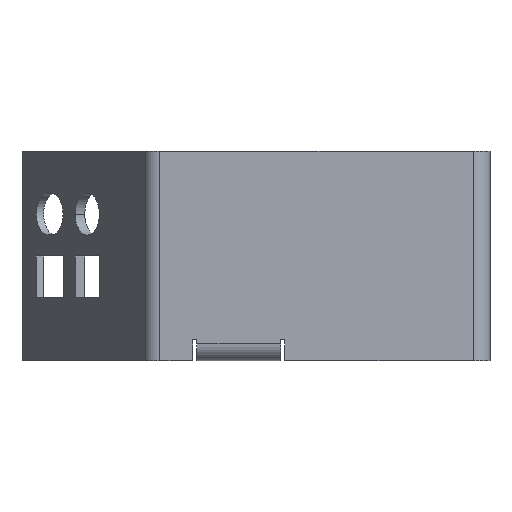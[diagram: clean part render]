
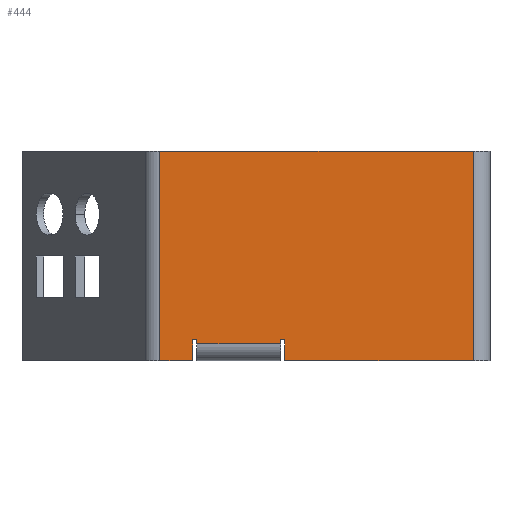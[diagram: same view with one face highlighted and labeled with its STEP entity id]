
A CAD part, front view. The second image highlights one B-rep face of the part: STEP entity #444.
In plain terms, the highlighted planar face has unit normal (0, -1, 0).
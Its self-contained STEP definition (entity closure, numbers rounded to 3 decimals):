
#140 = ORIENTED_EDGE ( 'NONE', *, *, #429, .F. ) ;
#390 = VERTEX_POINT ( 'NONE', #1718 ) ;
#406 = VERTEX_POINT ( 'NONE', #1747 ) ;
#429 = EDGE_CURVE ( 'NONE', #430, #455, #1778, .T. ) ;
#430 = VERTEX_POINT ( 'NONE', #1774 ) ;
#431 = ORIENTED_EDGE ( 'NONE', *, *, #432, .F. ) ;
#432 = EDGE_CURVE ( 'NONE', #433, #430, #1773, .T. ) ;
#433 = VERTEX_POINT ( 'NONE', #1769 ) ;
#434 = ORIENTED_EDGE ( 'NONE', *, *, #435, .F. ) ;
#435 = EDGE_CURVE ( 'NONE', #436, #433, #1768, .T. ) ;
#436 = VERTEX_POINT ( 'NONE', #1827 ) ;
#437 = ORIENTED_EDGE ( 'NONE', *, *, #438, .T. ) ;
#438 = EDGE_CURVE ( 'NONE', #436, #439, #1826, .T. ) ;
#439 = VERTEX_POINT ( 'NONE', #1822 ) ;
#440 = ORIENTED_EDGE ( 'NONE', *, *, #441, .F. ) ;
#441 = EDGE_CURVE ( 'NONE', #442, #439, #1821, .T. ) ;
#442 = VERTEX_POINT ( 'NONE', #1817 ) ;
#444 = ADVANCED_FACE ( 'NONE', ( #1816 ), #1815, .F. ) ;
#445 = EDGE_LOOP ( 'NONE', ( #446, #447, #450, #453, #140, #431, #434, #437, #440, #502, #505, #508 ) ) ;
#446 = ORIENTED_EDGE ( 'NONE', *, *, #457, .T. ) ;
#447 = ORIENTED_EDGE ( 'NONE', *, *, #448, .F. ) ;
#448 = EDGE_CURVE ( 'NONE', #449, #406, #1810, .T. ) ;
#449 = VERTEX_POINT ( 'NONE', #1806 ) ;
#450 = ORIENTED_EDGE ( 'NONE', *, *, #451, .T. ) ;
#451 = EDGE_CURVE ( 'NONE', #449, #452, #1805, .T. ) ;
#452 = VERTEX_POINT ( 'NONE', #1801 ) ;
#453 = ORIENTED_EDGE ( 'NONE', *, *, #454, .T. ) ;
#454 = EDGE_CURVE ( 'NONE', #452, #455, #1800, .T. ) ;
#455 = VERTEX_POINT ( 'NONE', #1796 ) ;
#457 = EDGE_CURVE ( 'NONE', #390, #406, #1857, .T. ) ;
#502 = ORIENTED_EDGE ( 'NONE', *, *, #503, .F. ) ;
#503 = EDGE_CURVE ( 'NONE', #504, #442, #1904, .T. ) ;
#504 = VERTEX_POINT ( 'NONE', #1900 ) ;
#505 = ORIENTED_EDGE ( 'NONE', *, *, #506, .F. ) ;
#506 = EDGE_CURVE ( 'NONE', #507, #504, #1899, .T. ) ;
#507 = VERTEX_POINT ( 'NONE', #1895 ) ;
#508 = ORIENTED_EDGE ( 'NONE', *, *, #509, .T. ) ;
#509 = EDGE_CURVE ( 'NONE', #507, #390, #1894, .T. ) ;
#1718 = CARTESIAN_POINT ( 'NONE',  ( 380., -10., 0. ) ) ;
#1747 = CARTESIAN_POINT ( 'NONE',  ( 380., -10., 250. ) ) ;
#1765 = DIRECTION ( 'NONE',  ( 0., 0., 1. ) ) ;
#1766 = VECTOR ( 'NONE', #1765, 1000. ) ;
#1767 = CARTESIAN_POINT ( 'NONE',  ( 50., -10., 250. ) ) ;
#1768 = LINE ( 'NONE', #1767, #1766 ) ;
#1769 = CARTESIAN_POINT ( 'NONE',  ( 50., -10., 25. ) ) ;
#1770 = DIRECTION ( 'NONE',  ( -1., 0., 0. ) ) ;
#1771 = VECTOR ( 'NONE', #1770, 1000. ) ;
#1772 = CARTESIAN_POINT ( 'NONE',  ( 0., -10., 25. ) ) ;
#1773 = LINE ( 'NONE', #1772, #1771 ) ;
#1774 = CARTESIAN_POINT ( 'NONE',  ( 45., -10., 25. ) ) ;
#1775 = DIRECTION ( 'NONE',  ( 0., 0., -1. ) ) ;
#1776 = VECTOR ( 'NONE', #1775, 1000. ) ;
#1777 = CARTESIAN_POINT ( 'NONE',  ( 45., -10., 250. ) ) ;
#1778 = LINE ( 'NONE', #1777, #1776 ) ;
#1796 = CARTESIAN_POINT ( 'NONE',  ( 45., -10., 0. ) ) ;
#1797 = DIRECTION ( 'NONE',  ( 1., 0., 0. ) ) ;
#1798 = VECTOR ( 'NONE', #1797, 1000. ) ;
#1799 = CARTESIAN_POINT ( 'NONE',  ( 0., -10., 0. ) ) ;
#1800 = LINE ( 'NONE', #1799, #1798 ) ;
#1801 = CARTESIAN_POINT ( 'NONE',  ( 5.774, -10., 0. ) ) ;
#1802 = DIRECTION ( 'NONE',  ( 0., 0., -1. ) ) ;
#1803 = VECTOR ( 'NONE', #1802, 1000. ) ;
#1804 = CARTESIAN_POINT ( 'NONE',  ( 5.774, -10., 250. ) ) ;
#1805 = LINE ( 'NONE', #1804, #1803 ) ;
#1806 = CARTESIAN_POINT ( 'NONE',  ( 5.774, -10., 250. ) ) ;
#1807 = DIRECTION ( 'NONE',  ( 1., 0., 0. ) ) ;
#1808 = VECTOR ( 'NONE', #1807, 1000. ) ;
#1809 = CARTESIAN_POINT ( 'NONE',  ( 0., -10., 250. ) ) ;
#1810 = LINE ( 'NONE', #1809, #1808 ) ;
#1811 = DIRECTION ( 'NONE',  ( 0., 0., 1. ) ) ;
#1812 = DIRECTION ( 'NONE',  ( 0., 1., 0. ) ) ;
#1813 = CARTESIAN_POINT ( 'NONE',  ( 0., -10., 250. ) ) ;
#1814 = AXIS2_PLACEMENT_3D ( 'NONE', #1813, #1812, #1811 ) ;
#1815 = PLANE ( 'NONE',  #1814 ) ;
#1816 = FACE_OUTER_BOUND ( 'NONE', #445, .T. ) ;
#1817 = CARTESIAN_POINT ( 'NONE',  ( 150., -10., 25. ) ) ;
#1818 = DIRECTION ( 'NONE',  ( 0., 0., -1. ) ) ;
#1819 = VECTOR ( 'NONE', #1818, 1000. ) ;
#1820 = CARTESIAN_POINT ( 'NONE',  ( 150., -10., 250. ) ) ;
#1821 = LINE ( 'NONE', #1820, #1819 ) ;
#1822 = CARTESIAN_POINT ( 'NONE',  ( 150., -10., 20. ) ) ;
#1823 = DIRECTION ( 'NONE',  ( 1., 0., 0. ) ) ;
#1824 = VECTOR ( 'NONE', #1823, 1000. ) ;
#1825 = CARTESIAN_POINT ( 'NONE',  ( 50., -10., 20. ) ) ;
#1826 = LINE ( 'NONE', #1825, #1824 ) ;
#1827 = CARTESIAN_POINT ( 'NONE',  ( 50., -10., 20. ) ) ;
#1854 = DIRECTION ( 'NONE',  ( 0., 0., 1. ) ) ;
#1855 = VECTOR ( 'NONE', #1854, 1000. ) ;
#1856 = CARTESIAN_POINT ( 'NONE',  ( 380., -10., 0. ) ) ;
#1857 = LINE ( 'NONE', #1856, #1855 ) ;
#1891 = DIRECTION ( 'NONE',  ( 1., 0., 0. ) ) ;
#1892 = VECTOR ( 'NONE', #1891, 1000. ) ;
#1893 = CARTESIAN_POINT ( 'NONE',  ( 0., -10., 0. ) ) ;
#1894 = LINE ( 'NONE', #1893, #1892 ) ;
#1895 = CARTESIAN_POINT ( 'NONE',  ( 155., -10., 0. ) ) ;
#1896 = DIRECTION ( 'NONE',  ( 0., 0., 1. ) ) ;
#1897 = VECTOR ( 'NONE', #1896, 1000. ) ;
#1898 = CARTESIAN_POINT ( 'NONE',  ( 155., -10., 250. ) ) ;
#1899 = LINE ( 'NONE', #1898, #1897 ) ;
#1900 = CARTESIAN_POINT ( 'NONE',  ( 155., -10., 25. ) ) ;
#1901 = DIRECTION ( 'NONE',  ( -1., 0., 0. ) ) ;
#1902 = VECTOR ( 'NONE', #1901, 1000. ) ;
#1903 = CARTESIAN_POINT ( 'NONE',  ( 0., -10., 25. ) ) ;
#1904 = LINE ( 'NONE', #1903, #1902 ) ;
